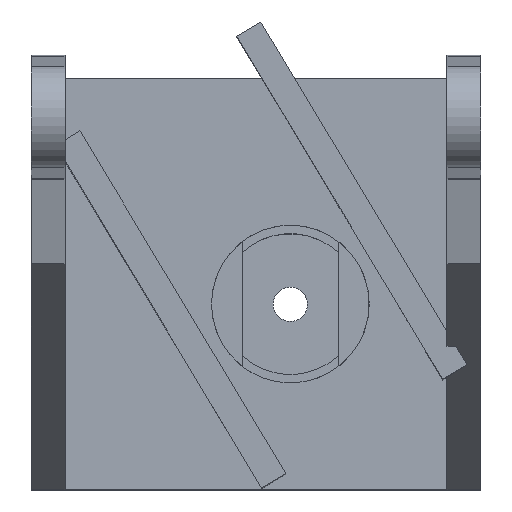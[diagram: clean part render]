
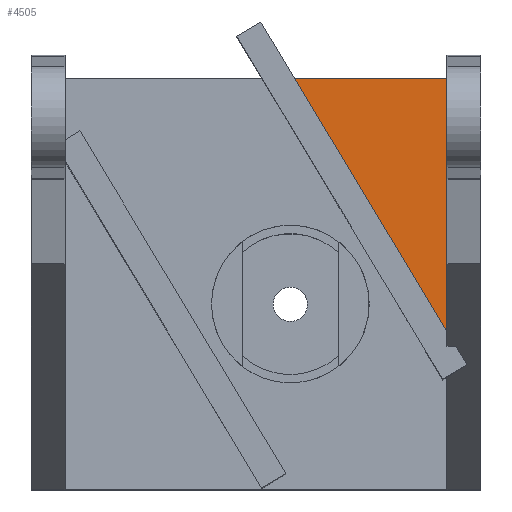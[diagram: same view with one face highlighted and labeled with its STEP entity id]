
A CAD part, top view. The second image highlights one B-rep face of the part: STEP entity #4505.
In plain terms, the highlighted planar face has unit normal (0, 0, 1).
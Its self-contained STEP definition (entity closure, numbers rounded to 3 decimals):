
#634 = PLANE('',#635);
#635 = AXIS2_PLACEMENT_3D('',#636,#637,#638);
#636 = CARTESIAN_POINT('',(33.8,-66.,-97.04));
#637 = DIRECTION('',(1.,0.,0.));
#638 = DIRECTION('',(0.,0.,1.));
#660 = PLANE('',#661);
#661 = AXIS2_PLACEMENT_3D('',#662,#663,#664);
#662 = CARTESIAN_POINT('',(-46.,7.,-97.04));
#663 = DIRECTION('',(0.,1.,0.));
#664 = DIRECTION('',(0.,0.,1.));
#2346 = EDGE_CURVE('',#2347,#2349,#2351,.T.);
#2347 = VERTEX_POINT('',#2348);
#2348 = CARTESIAN_POINT('',(33.8,-11.844,-93.04));
#2349 = VERTEX_POINT('',#2350);
#2350 = CARTESIAN_POINT('',(33.8,7.,-93.04));
#2351 = SURFACE_CURVE('',#2352,(#2356,#2363),.PCURVE_S1.);
#2352 = LINE('',#2353,#2354);
#2353 = CARTESIAN_POINT('',(33.8,-66.,-93.04));
#2354 = VECTOR('',#2355,1.);
#2355 = DIRECTION('',(0.,1.,0.));
#2356 = PCURVE('',#634,#2357);
#2357 = DEFINITIONAL_REPRESENTATION('',(#2358),#2362);
#2358 = LINE('',#2359,#2360);
#2359 = CARTESIAN_POINT('',(4.,0.));
#2360 = VECTOR('',#2361,1.);
#2361 = DIRECTION('',(0.,-1.));
#2362 = ( GEOMETRIC_REPRESENTATION_CONTEXT(2) 
PARAMETRIC_REPRESENTATION_CONTEXT() REPRESENTATION_CONTEXT('2D SPACE',''
  ) );
#2363 = PCURVE('',#2364,#2369);
#2364 = PLANE('',#2365);
#2365 = AXIS2_PLACEMENT_3D('',#2366,#2367,#2368);
#2366 = CARTESIAN_POINT('',(-46.,-66.,-93.04));
#2367 = DIRECTION('',(0.,0.,1.));
#2368 = DIRECTION('',(1.,0.,0.));
#2369 = DEFINITIONAL_REPRESENTATION('',(#2370),#2374);
#2370 = LINE('',#2371,#2372);
#2371 = CARTESIAN_POINT('',(79.8,0.));
#2372 = VECTOR('',#2373,1.);
#2373 = DIRECTION('',(0.,1.));
#2374 = ( GEOMETRIC_REPRESENTATION_CONTEXT(2) 
PARAMETRIC_REPRESENTATION_CONTEXT() REPRESENTATION_CONTEXT('2D SPACE',''
  ) );
#2392 = PLANE('',#2393);
#2393 = AXIS2_PLACEMENT_3D('',#2394,#2395,#2396);
#2394 = CARTESIAN_POINT('',(27.8,-13.,-97.04));
#2395 = DIRECTION('',(0.,-0.961,0.278));
#2396 = DIRECTION('',(0.,0.278,0.961));
#2919 = VERTEX_POINT('',#2920);
#2920 = CARTESIAN_POINT('',(0.757,7.,-93.04));
#2934 = PLANE('',#2935);
#2935 = AXIS2_PLACEMENT_3D('',#2936,#2937,#2938);
#2936 = CARTESIAN_POINT('',(31.348,-43.913,-27.04));
#2937 = DIRECTION('',(0.857,0.515,0.));
#2938 = DIRECTION('',(0.,0.,-1.));
#2946 = EDGE_CURVE('',#2919,#2349,#2947,.T.);
#2947 = SURFACE_CURVE('',#2948,(#2952,#2959),.PCURVE_S1.);
#2948 = LINE('',#2949,#2950);
#2949 = CARTESIAN_POINT('',(-46.,7.,-93.04));
#2950 = VECTOR('',#2951,1.);
#2951 = DIRECTION('',(1.,0.,0.));
#2952 = PCURVE('',#660,#2953);
#2953 = DEFINITIONAL_REPRESENTATION('',(#2954),#2958);
#2954 = LINE('',#2955,#2956);
#2955 = CARTESIAN_POINT('',(4.,0.));
#2956 = VECTOR('',#2957,1.);
#2957 = DIRECTION('',(0.,1.));
#2958 = ( GEOMETRIC_REPRESENTATION_CONTEXT(2) 
PARAMETRIC_REPRESENTATION_CONTEXT() REPRESENTATION_CONTEXT('2D SPACE',''
  ) );
#2959 = PCURVE('',#2364,#2960);
#2960 = DEFINITIONAL_REPRESENTATION('',(#2961),#2965);
#2961 = LINE('',#2962,#2963);
#2962 = CARTESIAN_POINT('',(0.,73.));
#2963 = VECTOR('',#2964,1.);
#2964 = DIRECTION('',(1.,0.));
#2965 = ( GEOMETRIC_REPRESENTATION_CONTEXT(2) 
PARAMETRIC_REPRESENTATION_CONTEXT() REPRESENTATION_CONTEXT('2D SPACE',''
  ) );
#4156 = PLANE('',#4157);
#4157 = AXIS2_PLACEMENT_3D('',#4158,#4159,#4160);
#4158 = CARTESIAN_POINT('',(27.8,-22.512,-40.855));
#4159 = DIRECTION('',(1.,0.,0.));
#4160 = DIRECTION('',(-0.,0.,1.));
#4505 = ADVANCED_FACE('',(#4506),#2364,.T.);
#4506 = FACE_BOUND('',#4507,.T.);
#4507 = EDGE_LOOP('',(#4508,#4509,#4532,#4555,#4576));
#4508 = ORIENTED_EDGE('',*,*,#2946,.F.);
#4509 = ORIENTED_EDGE('',*,*,#4510,.F.);
#4510 = EDGE_CURVE('',#4511,#2919,#4513,.T.);
#4511 = VERTEX_POINT('',#4512);
#4512 = CARTESIAN_POINT('',(27.8,-38.008,-93.04));
#4513 = SURFACE_CURVE('',#4514,(#4518,#4525),.PCURVE_S1.);
#4514 = LINE('',#4515,#4516);
#4515 = CARTESIAN_POINT('',(25.965,-34.954,-93.04));
#4516 = VECTOR('',#4517,1.);
#4517 = DIRECTION('',(-0.515,0.857,0.));
#4518 = PCURVE('',#2364,#4519);
#4519 = DEFINITIONAL_REPRESENTATION('',(#4520),#4524);
#4520 = LINE('',#4521,#4522);
#4521 = CARTESIAN_POINT('',(71.965,31.046));
#4522 = VECTOR('',#4523,1.);
#4523 = DIRECTION('',(-0.515,0.857));
#4524 = ( GEOMETRIC_REPRESENTATION_CONTEXT(2) 
PARAMETRIC_REPRESENTATION_CONTEXT() REPRESENTATION_CONTEXT('2D SPACE',''
  ) );
#4525 = PCURVE('',#2934,#4526);
#4526 = DEFINITIONAL_REPRESENTATION('',(#4527),#4531);
#4527 = LINE('',#4528,#4529);
#4528 = CARTESIAN_POINT('',(66.,10.453));
#4529 = VECTOR('',#4530,1.);
#4530 = DIRECTION('',(0.,1.));
#4531 = ( GEOMETRIC_REPRESENTATION_CONTEXT(2) 
PARAMETRIC_REPRESENTATION_CONTEXT() REPRESENTATION_CONTEXT('2D SPACE',''
  ) );
#4532 = ORIENTED_EDGE('',*,*,#4533,.T.);
#4533 = EDGE_CURVE('',#4511,#4534,#4536,.T.);
#4534 = VERTEX_POINT('',#4535);
#4535 = CARTESIAN_POINT('',(27.8,-11.844,-93.04));
#4536 = SURFACE_CURVE('',#4537,(#4541,#4548),.PCURVE_S1.);
#4537 = LINE('',#4538,#4539);
#4538 = CARTESIAN_POINT('',(27.8,-44.256,-93.04));
#4539 = VECTOR('',#4540,1.);
#4540 = DIRECTION('',(0.,1.,0.));
#4541 = PCURVE('',#2364,#4542);
#4542 = DEFINITIONAL_REPRESENTATION('',(#4543),#4547);
#4543 = LINE('',#4544,#4545);
#4544 = CARTESIAN_POINT('',(73.8,21.744));
#4545 = VECTOR('',#4546,1.);
#4546 = DIRECTION('',(0.,1.));
#4547 = ( GEOMETRIC_REPRESENTATION_CONTEXT(2) 
PARAMETRIC_REPRESENTATION_CONTEXT() REPRESENTATION_CONTEXT('2D SPACE',''
  ) );
#4548 = PCURVE('',#4156,#4549);
#4549 = DEFINITIONAL_REPRESENTATION('',(#4550),#4554);
#4550 = LINE('',#4551,#4552);
#4551 = CARTESIAN_POINT('',(-52.185,21.744));
#4552 = VECTOR('',#4553,1.);
#4553 = DIRECTION('',(0.,-1.));
#4554 = ( GEOMETRIC_REPRESENTATION_CONTEXT(2) 
PARAMETRIC_REPRESENTATION_CONTEXT() REPRESENTATION_CONTEXT('2D SPACE',''
  ) );
#4555 = ORIENTED_EDGE('',*,*,#4556,.T.);
#4556 = EDGE_CURVE('',#4534,#2347,#4557,.T.);
#4557 = SURFACE_CURVE('',#4558,(#4562,#4569),.PCURVE_S1.);
#4558 = LINE('',#4559,#4560);
#4559 = CARTESIAN_POINT('',(-9.1,-11.844,-93.04));
#4560 = VECTOR('',#4561,1.);
#4561 = DIRECTION('',(1.,0.,-0.));
#4562 = PCURVE('',#2364,#4563);
#4563 = DEFINITIONAL_REPRESENTATION('',(#4564),#4568);
#4564 = LINE('',#4565,#4566);
#4565 = CARTESIAN_POINT('',(36.9,54.156));
#4566 = VECTOR('',#4567,1.);
#4567 = DIRECTION('',(1.,0.));
#4568 = ( GEOMETRIC_REPRESENTATION_CONTEXT(2) 
PARAMETRIC_REPRESENTATION_CONTEXT() REPRESENTATION_CONTEXT('2D SPACE',''
  ) );
#4569 = PCURVE('',#2392,#4570);
#4570 = DEFINITIONAL_REPRESENTATION('',(#4571),#4575);
#4571 = LINE('',#4572,#4573);
#4572 = CARTESIAN_POINT('',(4.164,36.9));
#4573 = VECTOR('',#4574,1.);
#4574 = DIRECTION('',(0.,-1.));
#4575 = ( GEOMETRIC_REPRESENTATION_CONTEXT(2) 
PARAMETRIC_REPRESENTATION_CONTEXT() REPRESENTATION_CONTEXT('2D SPACE',''
  ) );
#4576 = ORIENTED_EDGE('',*,*,#2346,.T.);
